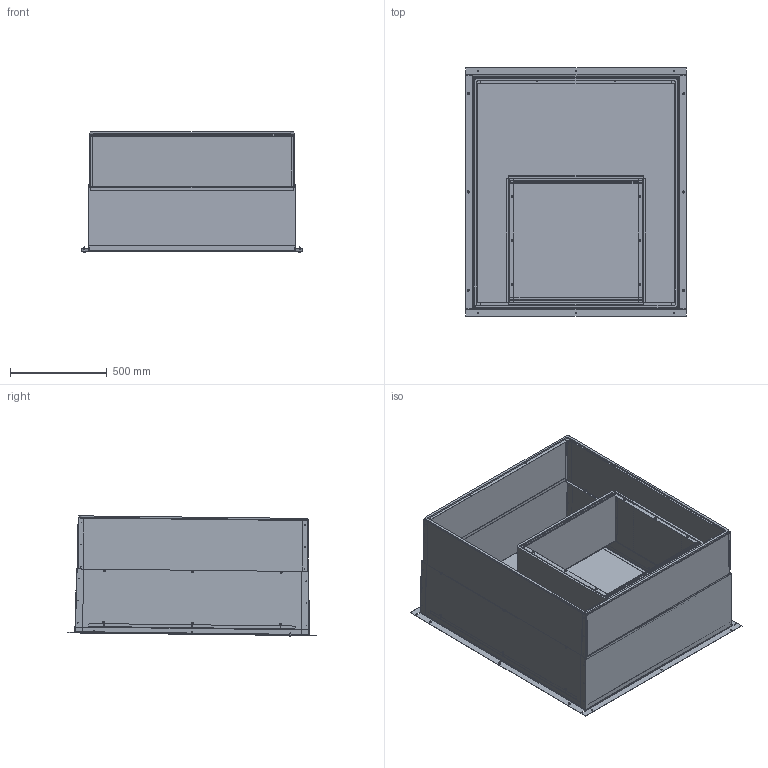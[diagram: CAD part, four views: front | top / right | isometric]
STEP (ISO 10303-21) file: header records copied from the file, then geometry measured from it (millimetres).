
FILE_DESCRIPTION (( 'STEP AP214' ), '1' );
FILE_NAME ('IWS-C WALL SLEEVE 13.0-23.5.STEP', '2016-07-14T15:53:50', ( 'BMC' ), ( 'Bard Manufacturing Co., Inc.' ), 'SwSTEP 2.0', 'SolidWorks 2016', '' );
FILE_SCHEMA (( 'AUTOMOTIVE_DESIGN' ));
Length unit declared in the file: inch
Products named in the file (19): MWS1425 fan inner; 110-203; MWS1425 fan outer; 110-202; 110-201; 1012-086; 104-1257; MWS1425 unit inner; Copy of GASKET^MWS1425 unit inner; 110-199; 110-200; IWS-C WALL SLEEVE 13.0-23.5; 106-292; MWS1425 unit outer; 110-198; 110-197; MWS1425 fan sleeve assembly; 5021-1692; 5021-1691
Assembly tree (33 placements, depth 4):
  IWS-C WALL SLEEVE 13.0-23.5
    MWS1425 unit inner
      110-200  x2
      110-199  x2
      Copy of GASKET^MWS1425 unit inner
    104-1257  x2
    1012-086  x6
    MWS1425 fan sleeve assembly
      MWS1425 fan outer
        110-201  x2
        110-202  x2
      MWS1425 fan inner
        110-203  x2
      5021-1691  x2
      5021-1692  x2
    MWS1425 unit outer
      110-197  x2
      110-198  x2
    106-292
Bounding box: 1143.35 x 1285.77 x 622.67 mm (x, y, z)
Surface area: 14752964 mm2 (no closed solid volume)
Topology: 0 solids, 28 shells, 1290 faces, 3382 edges, 2178 vertices
Faces by surface type: cylinder 740, plane 422, bspline 116, cone 12
Entity records: 23484 total; most frequent: CARTESIAN_POINT 6046, DIRECTION 3663, ORIENTED_EDGE 3366, EDGE_CURVE 1683, AXIS2_PLACEMENT_3D 1414, VERTEX_POINT 1083, EDGE_LOOP 916, VECTOR 835
